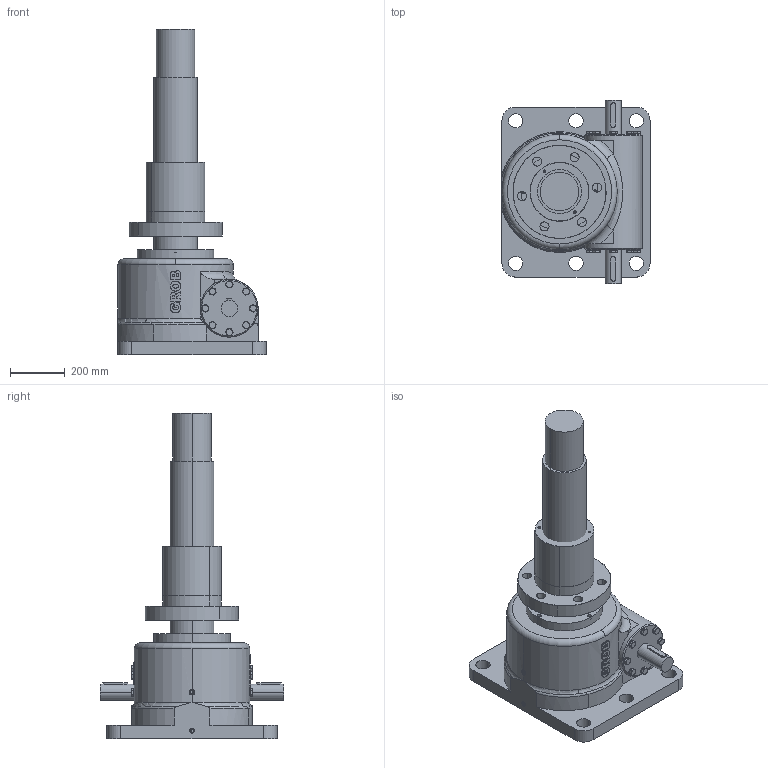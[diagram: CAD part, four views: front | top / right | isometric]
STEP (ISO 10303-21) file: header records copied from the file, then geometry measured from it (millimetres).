
FILE_DESCRIPTION(('STEP AP203'),'1');
FILE_NAME('mc100-lmn-f-1f-z-0260-0630-tr160x20-ab-o_0.stp','2023-12-20T14:57:21',('TraceParts'),('TraceParts S.A.'),'Spatial InterOp 3D',' ',' ');
FILE_SCHEMA(('CONFIG_CONTROL_DESIGN'));
Length unit declared in the file: millimetre
Products named in the file (1): 1
Bounding box: 540 x 670 x 1188 mm (x, y, z)
Volume: 96037541.1 mm3; surface area: 2625237.9 mm2
Topology: 56 solids, 60 shells, 1526 faces, 3607 edges, 2280 vertices
Faces by surface type: cylinder 593, plane 555, cone 305, bspline 53, torus 20
Entity records: 61102 total; most frequent: CARTESIAN_POINT 26150, DIRECTION 7537, ORIENTED_EDGE 7098, EDGE_CURVE 3549, AXIS2_PLACEMENT_3D 3034, VERTEX_POINT 2280, EDGE_LOOP 1739, ADVANCED_FACE 1526
